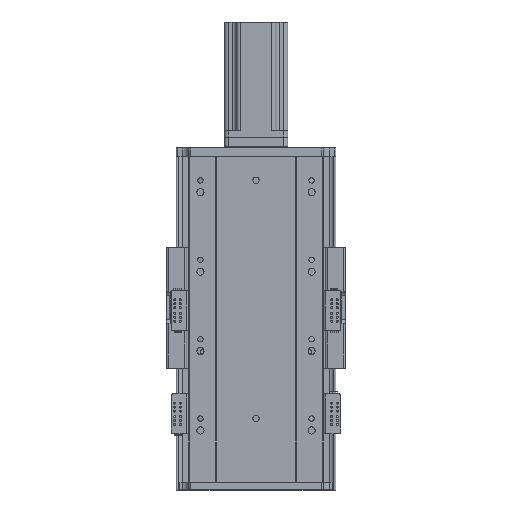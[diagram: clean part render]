
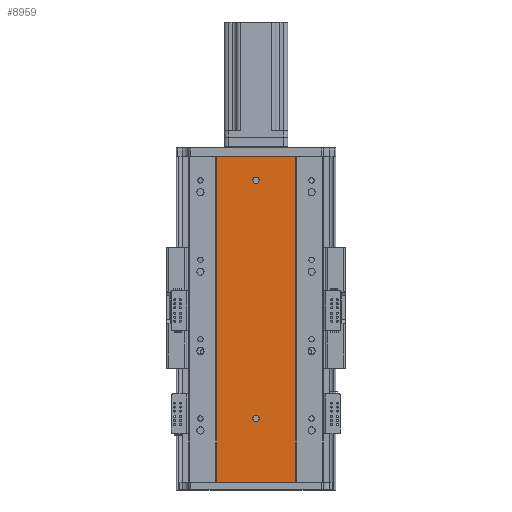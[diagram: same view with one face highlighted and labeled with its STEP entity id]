
A CAD part, front view. The second image highlights one B-rep face of the part: STEP entity #8959.
In plain terms, the highlighted planar face has unit normal (0, -1, 0).
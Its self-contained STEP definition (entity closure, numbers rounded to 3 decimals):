
#139 = DIRECTION ( 'NONE',  ( 0., 0., -1. ) ) ;
#141 = CARTESIAN_POINT ( 'NONE',  ( 136.47, 79.476, 80. ) ) ;
#187 = DIRECTION ( 'NONE',  ( 0., -1., 0. ) ) ;
#214 = DIRECTION ( 'NONE',  ( 0., 0., -1. ) ) ;
#218 = DIRECTION ( 'NONE',  ( 0., -1., 0. ) ) ;
#239 = CARTESIAN_POINT ( 'NONE',  ( 136.47, 79.476, 380. ) ) ;
#3265 = VERTEX_POINT ( 'NONE', #18073 ) ;
#3269 = VERTEX_POINT ( 'NONE', #18032 ) ;
#3274 = VERTEX_POINT ( 'NONE', #18105 ) ;
#3285 = VERTEX_POINT ( 'NONE', #34140 ) ;
#3657 = B_SPLINE_CURVE_WITH_KNOTS ( 'NONE', 3,
 ( #33646, #33653, #33670, #33671 ),
 .UNSPECIFIED., .F., .F.,
 ( 4, 4 ),
 ( 0., 1. ),
 .UNSPECIFIED. ) ;
#3691 = B_SPLINE_CURVE_WITH_KNOTS ( 'NONE', 3,
 ( #35097, #35067, #35071, #35084 ),
 .UNSPECIFIED., .F., .F.,
 ( 4, 4 ),
 ( 0., 1. ),
 .UNSPECIFIED. ) ;
#6155 = CIRCLE ( 'NONE', #15414, 4. ) ;
#6212 = CIRCLE ( 'NONE', #15345, 4. ) ;
#8959 = ADVANCED_FACE ( 'NONE', ( #13397, #13368, #13370 ), #19112, .F. ) ;
#9619 = EDGE_CURVE ( 'NONE', #21107, #21165, #6155, .T. ) ;
#9628 = EDGE_CURVE ( 'NONE', #21155, #21104, #6212, .T. ) ;
#13368 = FACE_BOUND ( 'NONE', #16021, .T. ) ;
#13370 = FACE_OUTER_BOUND ( 'NONE', #16004, .T. ) ;
#13397 = FACE_BOUND ( 'NONE', #15987, .T. ) ;
#15016 = AXIS2_PLACEMENT_3D ( 'NONE', #19091, #19121, #19105 ) ;
#15345 = AXIS2_PLACEMENT_3D ( 'NONE', #239, #218, #214 ) ;
#15414 = AXIS2_PLACEMENT_3D ( 'NONE', #141, #187, #139 ) ;
#15987 = EDGE_LOOP ( 'NONE', ( #20107, #20207 ) ) ;
#16004 = EDGE_LOOP ( 'NONE', ( #20110, #20157, #20152, #20209 ) ) ;
#16021 = EDGE_LOOP ( 'NONE', ( #20193, #20125 ) ) ;
#16250 = AXIS2_PLACEMENT_3D ( 'NONE', #35111, #35079, #35080 ) ;
#16299 = AXIS2_PLACEMENT_3D ( 'NONE', #33675, #33641, #33667 ) ;
#18032 = CARTESIAN_POINT ( 'NONE',  ( 86.97, 79.476, 0. ) ) ;
#18073 = CARTESIAN_POINT ( 'NONE',  ( 185.97, 79.476, 0. ) ) ;
#18105 = CARTESIAN_POINT ( 'NONE',  ( 86.97, 79.476, 410. ) ) ;
#19091 = CARTESIAN_POINT ( 'NONE',  ( 0., 79.476, 410. ) ) ;
#19105 = DIRECTION ( 'NONE',  ( 0., 0., 1. ) ) ;
#19112 = PLANE ( 'NONE',  #15016 ) ;
#19121 = DIRECTION ( 'NONE',  ( 0., 1., 0. ) ) ;
#20107 = ORIENTED_EDGE ( 'NONE', *, *, #22232, .F. ) ;
#20110 = ORIENTED_EDGE ( 'NONE', *, *, #22256, .T. ) ;
#20125 = ORIENTED_EDGE ( 'NONE', *, *, #9619, .F. ) ;
#20152 = ORIENTED_EDGE ( 'NONE', *, *, #22222, .F. ) ;
#20157 = ORIENTED_EDGE ( 'NONE', *, *, #22226, .F. ) ;
#20193 = ORIENTED_EDGE ( 'NONE', *, *, #22261, .F. ) ;
#20207 = ORIENTED_EDGE ( 'NONE', *, *, #9628, .F. ) ;
#20209 = ORIENTED_EDGE ( 'NONE', *, *, #22260, .T. ) ;
#21104 = VERTEX_POINT ( 'NONE', #29965 ) ;
#21107 = VERTEX_POINT ( 'NONE', #30007 ) ;
#21155 = VERTEX_POINT ( 'NONE', #30148 ) ;
#21165 = VERTEX_POINT ( 'NONE', #30092 ) ;
#22222 = EDGE_CURVE ( 'NONE', #3274, #3285, #33880, .T. ) ;
#22226 = EDGE_CURVE ( 'NONE', #3285, #3265, #3657, .T. ) ;
#22232 = EDGE_CURVE ( 'NONE', #21104, #21155, #33858, .T. ) ;
#22256 = EDGE_CURVE ( 'NONE', #3269, #3265, #33960, .T. ) ;
#22260 = EDGE_CURVE ( 'NONE', #3274, #3269, #3691, .T. ) ;
#22261 = EDGE_CURVE ( 'NONE', #21165, #21107, #33920, .T. ) ;
#29965 = CARTESIAN_POINT ( 'NONE',  ( 136.47, 79.476, 376. ) ) ;
#30007 = CARTESIAN_POINT ( 'NONE',  ( 136.47, 79.476, 84. ) ) ;
#30092 = CARTESIAN_POINT ( 'NONE',  ( 136.47, 79.476, 76. ) ) ;
#30148 = CARTESIAN_POINT ( 'NONE',  ( 136.47, 79.476, 384. ) ) ;
#32783 = DIRECTION ( 'NONE',  ( 1., 0., 0. ) ) ;
#33641 = DIRECTION ( 'NONE',  ( 0., -1., 0. ) ) ;
#33643 = CARTESIAN_POINT ( 'NONE',  ( 0., 79.476, 410. ) ) ;
#33646 = CARTESIAN_POINT ( 'NONE',  ( 185.97, 79.476, 410. ) ) ;
#33653 = CARTESIAN_POINT ( 'NONE',  ( 185.97, 79.476, 273.333 ) ) ;
#33667 = DIRECTION ( 'NONE',  ( 0., 0., -1. ) ) ;
#33670 = CARTESIAN_POINT ( 'NONE',  ( 185.97, 79.476, 136.667 ) ) ;
#33671 = CARTESIAN_POINT ( 'NONE',  ( 185.97, 79.476, 0. ) ) ;
#33675 = CARTESIAN_POINT ( 'NONE',  ( 136.47, 79.476, 380. ) ) ;
#33683 = DIRECTION ( 'NONE',  ( 1., 0., 0. ) ) ;
#33714 = CARTESIAN_POINT ( 'NONE',  ( 0., 79.476, 0. ) ) ;
#33858 = CIRCLE ( 'NONE', #16299, 4. ) ;
#33879 = VECTOR ( 'NONE', #33683, 1000. ) ;
#33880 = LINE ( 'NONE', #33643, #33879 ) ;
#33920 = CIRCLE ( 'NONE', #16250, 4. ) ;
#33941 = VECTOR ( 'NONE', #32783, 1000. ) ;
#33960 = LINE ( 'NONE', #33714, #33941 ) ;
#34140 = CARTESIAN_POINT ( 'NONE',  ( 185.97, 79.476, 410. ) ) ;
#35067 = CARTESIAN_POINT ( 'NONE',  ( 86.97, 79.476, 273.333 ) ) ;
#35071 = CARTESIAN_POINT ( 'NONE',  ( 86.97, 79.476, 136.667 ) ) ;
#35079 = DIRECTION ( 'NONE',  ( 0., -1., 0. ) ) ;
#35080 = DIRECTION ( 'NONE',  ( 0., 0., -1. ) ) ;
#35084 = CARTESIAN_POINT ( 'NONE',  ( 86.97, 79.476, 0. ) ) ;
#35097 = CARTESIAN_POINT ( 'NONE',  ( 86.97, 79.476, 410. ) ) ;
#35111 = CARTESIAN_POINT ( 'NONE',  ( 136.47, 79.476, 80. ) ) ;
